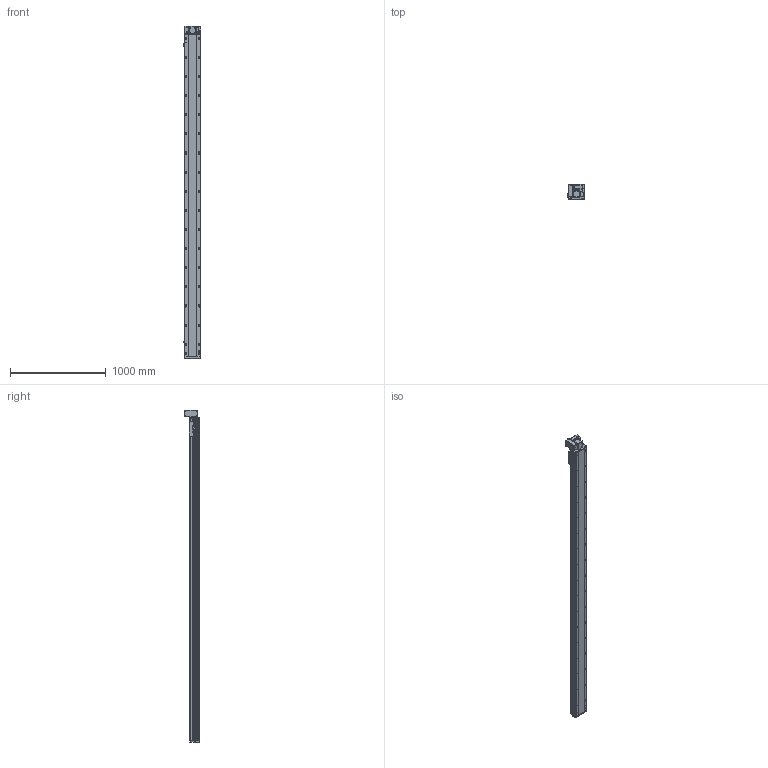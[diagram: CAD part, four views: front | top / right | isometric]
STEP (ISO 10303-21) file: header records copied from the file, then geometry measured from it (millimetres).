
FILE_DESCRIPTION (( 'STEP AP214' ), '1' );
FILE_NAME ('RTB17S-XX-3100-LW-M40-C4.STEP', '2025-12-11T07:21:38', ( '' ), ( '' ), 'SwSTEP 2.0', 'SolidWorks 2018', '' );
FILE_SCHEMA (( 'AUTOMOTIVE_DESIGN' ));
Length unit declared in the file: millimetre
Products named in the file (14): RTB14-L-005P--轴承塑胶压盖^RTB17S-LW-皮带座装配-400W_RTB17S-XX-XX-LW-M40-C4; RTB14-L-018P^RTB17S-LW-々湍釱蚾饜-400W_RTB17S-XX-XX-LW-M40-C4; RTB14-L-017P^RTB17S-LW-々湍釱蚾饜-400W_RTB17S-XX-XX-LW-M40-C4; RTH13-BL-012覜茼え俋离^RTB17S-XX-XX-LW-M40-C4; RTB17-R-011菁釱^RTB17S-XX-XX-LW-M40-C4; RTB14-L-008-M20--萇儂啣^RTB17S-LW-々湍釱蚾饜-400W_RTB17S-XX-XX-LW-M40-C4; RTB17S-L-004佪裝蹟譫蟀諉釱^RTB17S-XX-XX-LW-M40-C4; RTB17S-XX-3100-LW-M40-C4; RTB17S-LW-々湍釱蚾饜-400W^RTB17S-XX-XX-LW-M40-C4; 400W侜督萇儂^RTB17S-XX-XX-LW-M40-C4; RTB17S-L-007奻裔^RTB17S-XX-XX-LW-M40-C4; RTB17S-L-001耜醱啣^RTB17S-XX-XX-LW-M40-C4; OMRON EE-SX672 传感器^RTB17S-XX-XX-LW-M40-C4; RTB17S-L-014-T20--々湍釱^RTB17S-LW-々湍釱蚾饜-400W_RTB17S-XX-XX-LW-M40-C4
Assembly tree (16 placements, depth 3):
  RTB17S-XX-3100-LW-M40-C4
    RTB17-R-011菁釱^RTB17S-XX-XX-LW-M40-C4
    RTB17S-L-007奻裔^RTB17S-XX-XX-LW-M40-C4
    OMRON EE-SX672 传感器^RTB17S-XX-XX-LW-M40-C4  x3
    RTB17S-L-001耜醱啣^RTB17S-XX-XX-LW-M40-C4
    400W侜督萇儂^RTB17S-XX-XX-LW-M40-C4
    RTB17S-L-004佪裝蹟譫蟀諉釱^RTB17S-XX-XX-LW-M40-C4
    RTH13-BL-012覜茼え俋离^RTB17S-XX-XX-LW-M40-C4
    RTB17S-LW-々湍釱蚾饜-400W^RTB17S-XX-XX-LW-M40-C4
      RTB17S-L-014-T20--々湍釱^RTB17S-LW-々湍釱蚾饜-400W_RTB17S-XX-XX-LW-M40-C4
      RTB14-L-005P--轴承塑胶压盖^RTB17S-LW-皮带座装配-400W_RTB17S-XX-XX-LW-M40-C4
      RTB14-L-008-M20--萇儂啣^RTB17S-LW-々湍釱蚾饜-400W_RTB17S-XX-XX-LW-M40-C4
      RTB14-L-017P^RTB17S-LW-々湍釱蚾饜-400W_RTB17S-XX-XX-LW-M40-C4  x2
      RTB14-L-018P^RTB17S-LW-々湍釱蚾饜-400W_RTB17S-XX-XX-LW-M40-C4
Bounding box: 186 x 160.5 x 3472.5 mm (x, y, z)
Volume: 29497044.2 mm3; surface area: 3366476.1 mm2
Topology: 15 solids, 15 shells, 2381 faces, 6681 edges, 4365 vertices
Faces by surface type: plane 1090, cylinder 843, bspline 301, cone 139, torus 8
Entity records: 71081 total; most frequent: CARTESIAN_POINT 20286, ORIENTED_EDGE 10206, DIRECTION 9386, EDGE_CURVE 5103, VERTEX_POINT 3353, AXIS2_PLACEMENT_3D 3283, LINE 2820, VECTOR 2820
